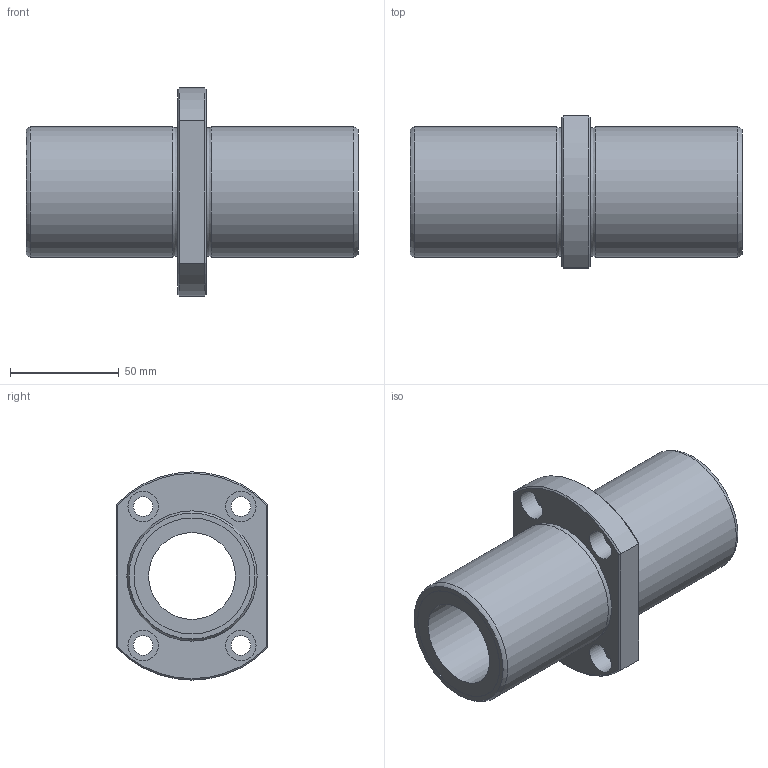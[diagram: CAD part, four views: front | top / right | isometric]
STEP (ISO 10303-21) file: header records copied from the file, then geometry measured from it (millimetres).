
FILE_DESCRIPTION((''),'2;1');
FILE_NAME('D:\製品 (図面)\カタログ用3D\リニアベアリング関連\STEP形式\LFDTC\LFDTC40B.stp','2010-06-04T08:43:38',('Tsuchiya'),(''),'Autodesk Inventor 10','Autodesk Inventor 10','');
FILE_SCHEMA(('AUTOMOTIVE_DESIGN { 1 0 10303 214 1 1 1 1 }'));
Length unit declared in the file: millimetre
Products named in the file (1): LFDTC40B
Bounding box: 153 x 70 x 96 mm (x, y, z)
Volume: 274978.8 mm3; surface area: 60131.7 mm2
Topology: 1 solids, 1 shells, 39 faces, 75 edges, 46 vertices
Faces by surface type: plane 16, cylinder 15, cone 4, torus 2, bspline 2
Full cylindrical faces by diameter (mm): 9 x4, 14 x4, 40 x1, 53.4 x2, 60 x2
Entity records: 1073 total; most frequent: CARTESIAN_POINT 292, DIRECTION 164, ORIENTED_EDGE 116, AXIS2_PLACEMENT_3D 76, EDGE_LOOP 74, EDGE_CURVE 58, VERTEX_POINT 46, FACE_OUTER_BOUND 39
